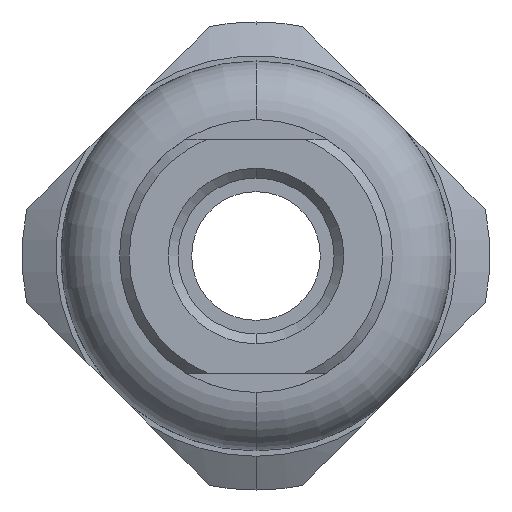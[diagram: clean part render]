
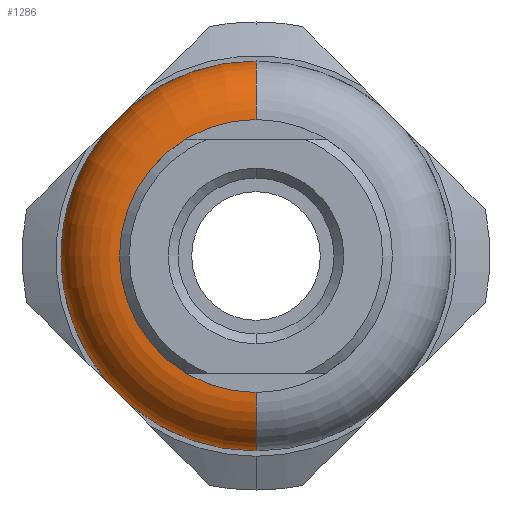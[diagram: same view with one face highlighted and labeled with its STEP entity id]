
A CAD part, left-side view. The second image highlights one B-rep face of the part: STEP entity #1286.
In plain terms, the highlighted toroidal (fillet/blend) face has major radius 3.5 mm and minor radius 1.5 mm.
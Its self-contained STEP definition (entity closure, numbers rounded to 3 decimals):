
#14 = EDGE_CURVE ( 'NONE', #4785, #4787, #2844, .T. ) ;
#24 = ORIENTED_EDGE ( 'NONE', *, *, #14, .F. ) ;
#29 = ORIENTED_EDGE ( 'NONE', *, *, #44, .F. ) ;
#37 = EDGE_LOOP ( 'NONE', ( #29, #4790, #4789, #24 ) ) ;
#44 = EDGE_CURVE ( 'NONE', #4799, #4785, #2909, .T. ) ;
#948 = CARTESIAN_POINT ( 'NONE',  ( 0., 0., -3.5 ) ) ;
#991 = CARTESIAN_POINT ( 'NONE',  ( 0., 0., 3.5 ) ) ;
#992 = DIRECTION ( 'NONE',  ( 0., 0., -1. ) ) ;
#993 = DIRECTION ( 'NONE',  ( 1., 0., 0. ) ) ;
#994 = AXIS2_PLACEMENT_3D ( 'NONE', #1001, #993, #992 ) ;
#995 = CIRCLE ( 'NONE', #994, 5. ) ;
#996 = DIRECTION ( 'NONE',  ( 0., 0., 1. ) ) ;
#997 = DIRECTION ( 'NONE',  ( 0., 1., 0. ) ) ;
#998 = CARTESIAN_POINT ( 'NONE',  ( 1.5, 0., 3.5 ) ) ;
#999 = AXIS2_PLACEMENT_3D ( 'NONE', #998, #997, #996 ) ;
#1000 = CIRCLE ( 'NONE', #999, 1.5 ) ;
#1001 = CARTESIAN_POINT ( 'NONE',  ( 1.5, 0., 0. ) ) ;
#1002 = CARTESIAN_POINT ( 'NONE',  ( 1.5, 0., -5. ) ) ;
#1003 = CARTESIAN_POINT ( 'NONE',  ( 1.5, 0., 5. ) ) ;
#1286 = ADVANCED_FACE ( 'NONE', ( #2920 ), #2919, .T. ) ;
#2837 = DIRECTION ( 'NONE',  ( 0., 0., -1. ) ) ;
#2838 = DIRECTION ( 'NONE',  ( 0., -1., 0. ) ) ;
#2839 = CARTESIAN_POINT ( 'NONE',  ( 1.5, 0., -3.5 ) ) ;
#2840 = AXIS2_PLACEMENT_3D ( 'NONE', #2839, #2838, #2837 ) ;
#2844 = CIRCLE ( 'NONE', #2840, 1.5 ) ;
#2905 = DIRECTION ( 'NONE',  ( 0., 0., 1. ) ) ;
#2906 = DIRECTION ( 'NONE',  ( -1., 0., 0. ) ) ;
#2907 = CARTESIAN_POINT ( 'NONE',  ( 0., 0., 0. ) ) ;
#2908 = AXIS2_PLACEMENT_3D ( 'NONE', #2907, #2906, #2905 ) ;
#2909 = CIRCLE ( 'NONE', #2908, 3.5 ) ;
#2918 = CARTESIAN_POINT ( 'NONE',  ( 1.5, 0., 0. ) ) ;
#2919 = TOROIDAL_SURFACE ( 'NONE', #2972, 3.5, 1.5 ) ;
#2920 = FACE_OUTER_BOUND ( 'NONE', #37, .T. ) ;
#2970 = DIRECTION ( 'NONE',  ( 0., 0., -1. ) ) ;
#2971 = DIRECTION ( 'NONE',  ( 1., 0., 0. ) ) ;
#2972 = AXIS2_PLACEMENT_3D ( 'NONE', #2918, #2971, #2970 ) ;
#4785 = VERTEX_POINT ( 'NONE', #948 ) ;
#4786 = VERTEX_POINT ( 'NONE', #1003 ) ;
#4787 = VERTEX_POINT ( 'NONE', #1002 ) ;
#4788 = EDGE_CURVE ( 'NONE', #4799, #4786, #1000, .T. ) ;
#4789 = ORIENTED_EDGE ( 'NONE', *, *, #4791, .F. ) ;
#4790 = ORIENTED_EDGE ( 'NONE', *, *, #4788, .T. ) ;
#4791 = EDGE_CURVE ( 'NONE', #4787, #4786, #995, .T. ) ;
#4799 = VERTEX_POINT ( 'NONE', #991 ) ;
